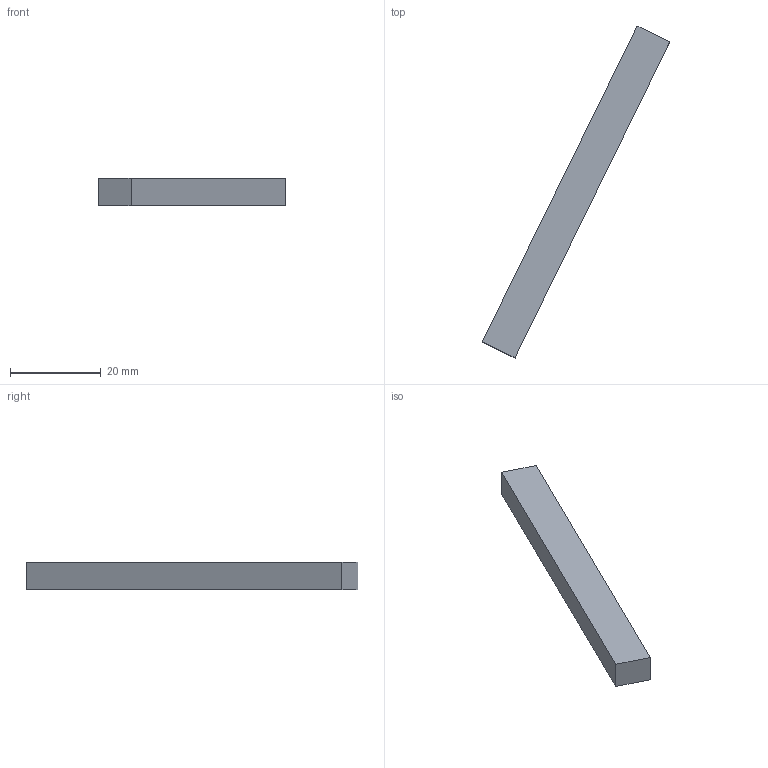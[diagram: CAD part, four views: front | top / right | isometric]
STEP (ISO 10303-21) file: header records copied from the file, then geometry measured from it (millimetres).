
FILE_DESCRIPTION(('Open CASCADE Model'),'2;1');
FILE_NAME('Open CASCADE Shape Model','2026-10-04T02:31:39',('Author'),( 'Open CASCADE'),'Open CASCADE STEP processor 8.0','Open CASCADE 8.0' ,'Unknown');
FILE_SCHEMA(('AUTOMOTIVE_DESIGN { 1 0 10303 214 1 1 1 1 }'));
Length unit declared in the file: millimetre
Products named in the file (1): Open CASCADE STEP translator 8.0 177
Bounding box: 41.19 x 73.02 x 6 mm (x, y, z)
Volume: 3713.8 mm3; surface area: 2262.4 mm2
Topology: 1 solids, 1 shells, 6 faces, 12 edges, 8 vertices
Faces by surface type: plane 6
Entity records: 322 total; most frequent: CARTESIAN_POINT 51, DIRECTION 50, LINE 36, VECTOR 36, ORIENTED_EDGE 24, PCURVE 24, DEFINITIONAL_REPRESENTATION 24, EDGE_CURVE 12
